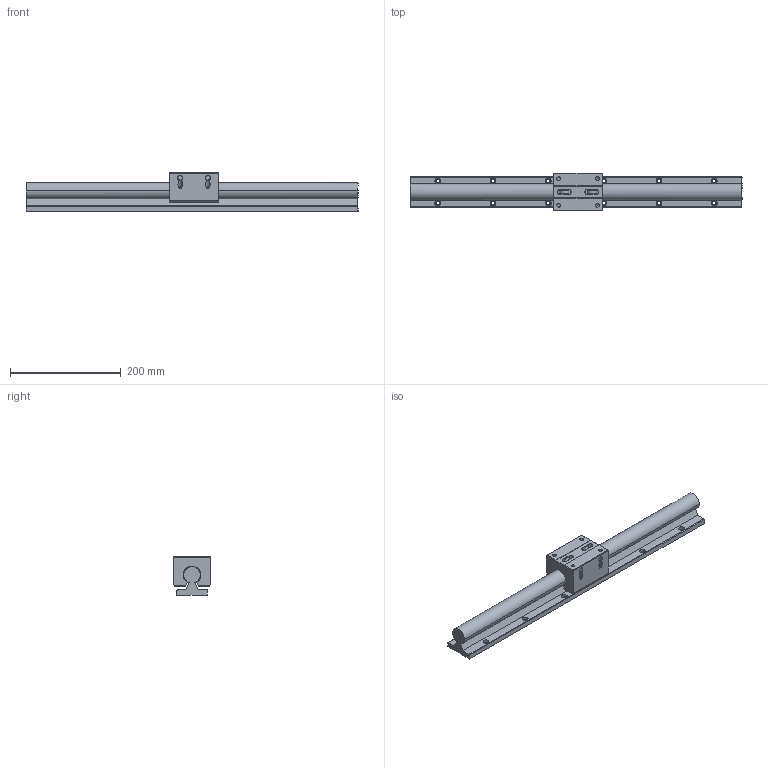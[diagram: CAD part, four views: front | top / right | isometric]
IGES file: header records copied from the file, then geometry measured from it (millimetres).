
Global section: file name: No Iges File Name specified; native system: AutoDesk Inventor R11.0; preprocessor: AutoDesk Inventor Iges Exporter R11.0; author: No Author specified; organization: No Organization specified; date: 20180605.172310; units: millimetre
Bounding box: 600 x 68 x 70 mm (x, y, z)
Surface area: 181465.2 mm2 (no closed solid volume)
Topology: 0 solids, 0 shells, 349 faces, 2364 edges, 2344 vertices
Faces by surface type: bspline 349
